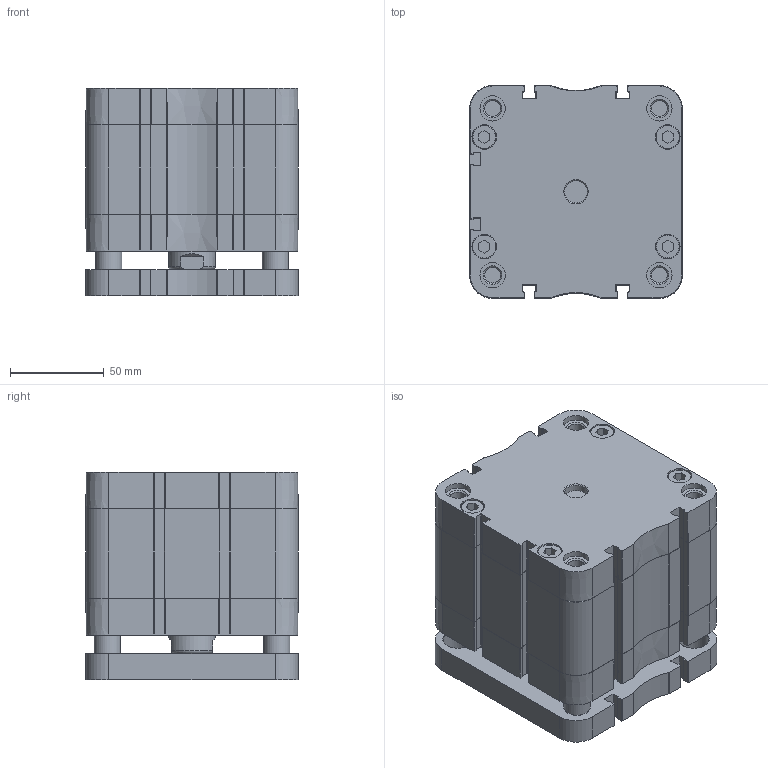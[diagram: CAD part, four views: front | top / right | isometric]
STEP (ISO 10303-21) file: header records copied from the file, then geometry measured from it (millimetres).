
FILE_DESCRIPTION(/* description */ ('Unknown'),/* implementation_level */ '2;1');
FILE_NAME(/* name */ 'ZINT 100_20',/* time_stamp */ '2024-11-13T09:58:50+01:00',/* author */ ('Unknown'),/* organization */ ('Unknown'),/* preprocessor_version */ 'ST-DEVELOPER v16.7',/* originating_system */ 'Solid Edge',/* authorisation */ 'Unknown');
FILE_SCHEMA (('AP242_MANAGED_MODEL_BASED_3D_ENGINEERING_MIM_LF { 1 0 10303 442 1 1 4 }','AUTOMOTIVE_DESIGN {1 0 10303 214 3 1 1}'));
Length unit declared in the file: millimetre
Products named in the file (7): ZINT 100_20; Führungsstange; Profilrohr; Platte; Kolbenstange; Kit_2; Kit_1
Assembly tree (7 placements, depth 2):
  ZINT 100_20
    Führungsstange  x2
    Profilrohr
    Platte
    Kolbenstange
    Kit_2
    Kit_1
Bounding box: 113.5 x 113.5 x 111 mm (x, y, z)
Volume: 1084777.5 mm3; surface area: 204234.5 mm2
Topology: 7 solids, 9 shells, 940 faces, 2502 edges, 1654 vertices
Faces by surface type: plane 443, cylinder 284, bspline 114, cone 76, torus 23
Full cylindrical faces by diameter (mm): 6 x1, 6.647 x2, 8.376 x8, 8.566 x2, 9.1 x2, 10 x3, 12 x1, 12.7 x8, 13 x2, 13.1 x8, 13.5 x8, 14 x2, 16 x4, 18 x1, 25 x1, 25.6 x1, 26.9 x1, 28 x1, 29.8 x1, 30 x2, 100 x2
Entity records: 34711 total; most frequent: CARTESIAN_POINT 6703, ORIENTED_EDGE 4612, DIRECTION 4360, EDGE_CURVE 2306, VERTEX_POINT 1605, AXIS2_PLACEMENT_3D 1493, LINE 1374, VECTOR 1374
